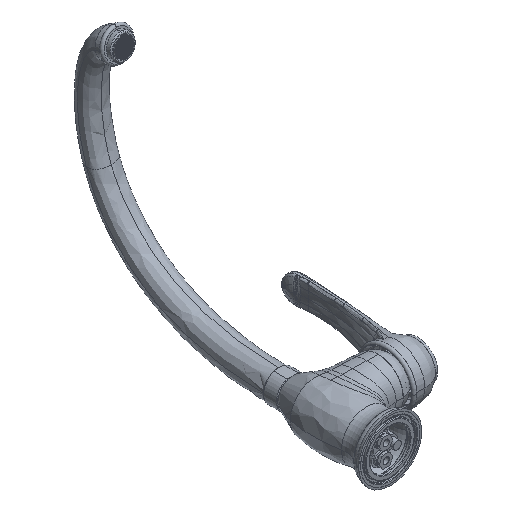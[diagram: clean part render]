
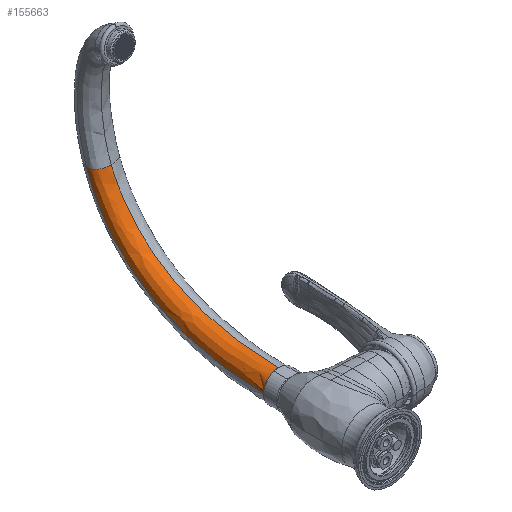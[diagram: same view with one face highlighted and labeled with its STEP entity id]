
A CAD part, isometric view. The second image highlights one B-rep face of the part: STEP entity #155663.
In plain terms, the highlighted free-form (B-spline) face has degree [3, 3] with [7, 9] control points.
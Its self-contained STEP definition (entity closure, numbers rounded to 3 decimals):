
#109195=CARTESIAN_POINT('',(-14.1,278.24,105.));
#109224=CARTESIAN_POINT('',(0.,267.74,105.));
#109261=CARTESIAN_POINT('',(0.,103.74,14.5));
#109262=CARTESIAN_POINT('',(0.,122.494,
14.5));
#109263=CARTESIAN_POINT('',(0.,157.617,
17.921));
#109264=CARTESIAN_POINT('',(0.,195.74,
30.697));
#109265=CARTESIAN_POINT('',(0.,222.435,
46.642));
#109266=CARTESIAN_POINT('',(0.,240.346,
61.804));
#109267=CARTESIAN_POINT('',(0.,255.833,
80.665));
#109268=CARTESIAN_POINT('',(0.,264.199,
96.235));
#109269=CARTESIAN_POINT('',(0.,267.74,105.));
#109296=CARTESIAN_POINT('',(-14.5,103.74,0.));
#109317=CARTESIAN_POINT('',(-14.5,103.74,0.));
#109318=CARTESIAN_POINT('',(-14.455,124.51,
0.));
#109319=CARTESIAN_POINT('',(-14.395,163.099,
4.172));
#109320=CARTESIAN_POINT('',(-14.298,204.135,
19.507));
#109321=CARTESIAN_POINT('',(-14.222,232.277,
38.306));
#109322=CARTESIAN_POINT('',(-14.173,250.84,
55.962));
#109323=CARTESIAN_POINT('',(-14.133,266.56,
77.623));
#109324=CARTESIAN_POINT('',(-14.111,274.814,
95.216));
#109325=CARTESIAN_POINT('',(-14.1,278.24,105.));
#109355=CARTESIAN_POINT('',(-14.5,103.74,0.));
#109356=CARTESIAN_POINT('',(-14.5,103.74,1.898));
#109357=CARTESIAN_POINT('',(-13.745,103.74,5.693));
#109358=CARTESIAN_POINT('',(-10.52,103.74,10.52));
#109359=CARTESIAN_POINT('',(-5.693,103.74,13.745));
#109360=CARTESIAN_POINT('',(-1.898,103.74,14.5));
#109361=CARTESIAN_POINT('',(0.,103.74,14.5));
#109363=CARTESIAN_POINT('',(-14.1,278.24,105.));
#109364=CARTESIAN_POINT('',(-14.1,276.19,105.));
#109365=CARTESIAN_POINT('',(-13.302,272.888,105.));
#109366=CARTESIAN_POINT('',(-10.285,269.755,105.));
#109367=CARTESIAN_POINT('',(-5.818,268.072,105.));
#109368=CARTESIAN_POINT('',(-2.05,267.74,105.));
#109369=CARTESIAN_POINT('',(0.,267.74,105.));
#142091=VERTEX_POINT('',#109195);
#142097=VERTEX_POINT('',#109224);
#142100=VERTEX_POINT('',#109296);
#142101=VERTEX_POINT('',#109361);
#155593=CARTESIAN_POINT('',(-14.504,101.553,
-0.171));
#155594=CARTESIAN_POINT('',(-14.456,123.197,
-0.322));
#155595=CARTESIAN_POINT('',(-14.395,162.634,
3.79));
#155596=CARTESIAN_POINT('',(-14.297,204.302,
19.372));
#155597=CARTESIAN_POINT('',(-14.221,232.47,
38.207));
#155598=CARTESIAN_POINT('',(-14.172,251.042,
55.894));
#155599=CARTESIAN_POINT('',(-14.131,267.13,
78.094));
#155600=CARTESIAN_POINT('',(-14.108,275.586,
96.441));
#155601=CARTESIAN_POINT('',(-14.097,279.142,
107.072));
#155602=CARTESIAN_POINT('',(-14.528,101.6,
1.787));
#155603=CARTESIAN_POINT('',(-14.48,122.778,
1.635));
#155604=CARTESIAN_POINT('',(-14.421,161.428,
5.638));
#155605=CARTESIAN_POINT('',(-14.323,202.458,
20.853));
#155606=CARTESIAN_POINT('',(-14.248,230.34,
39.294));
#155607=CARTESIAN_POINT('',(-14.198,248.806,
56.645));
#155608=CARTESIAN_POINT('',(-14.157,264.89,
78.471));
#155609=CARTESIAN_POINT('',(-14.134,273.408,
96.552));
#155610=CARTESIAN_POINT('',(-14.122,277.011,
107.044));
#155611=CARTESIAN_POINT('',(-13.785,101.672,
5.651));
#155612=CARTESIAN_POINT('',(-13.724,122.136,
5.498));
#155613=CARTESIAN_POINT('',(-13.641,159.566,
9.286));
#155614=CARTESIAN_POINT('',(-13.528,199.596,
23.776));
#155615=CARTESIAN_POINT('',(-13.448,227.024,
41.437));
#155616=CARTESIAN_POINT('',(-13.398,245.317,
58.125));
#155617=CARTESIAN_POINT('',(-13.36,261.383,
79.214));
#155618=CARTESIAN_POINT('',(-13.341,269.985,
96.772));
#155619=CARTESIAN_POINT('',(-13.332,273.65,
106.991));
#155620=CARTESIAN_POINT('',(-10.522,101.736,
10.528));
#155621=CARTESIAN_POINT('',(-10.5,121.565,
10.381));
#155622=CARTESIAN_POINT('',(-10.48,157.905,
13.91));
#155623=CARTESIAN_POINT('',(-10.425,197.016,
27.493));
#155624=CARTESIAN_POINT('',(-10.377,224.013,
44.176));
#155625=CARTESIAN_POINT('',(-10.343,242.127,
60.023));
#155626=CARTESIAN_POINT('',(-10.312,258.143,
80.172));
#155627=CARTESIAN_POINT('',(-10.293,266.789,
97.055));
#155628=CARTESIAN_POINT('',(-10.283,270.492,
106.922));
#155629=CARTESIAN_POINT('',(-5.636,101.767,
13.787));
#155630=CARTESIAN_POINT('',(-5.685,121.285,
13.655));
#155631=CARTESIAN_POINT('',(-5.776,157.098,
17.03));
#155632=CARTESIAN_POINT('',(-5.824,195.753,
30.036));
#155633=CARTESIAN_POINT('',(-5.831,222.509,
46.077));
#155634=CARTESIAN_POINT('',(-5.823,240.5,
61.36));
#155635=CARTESIAN_POINT('',(-5.804,256.446,
80.855));
#155636=CARTESIAN_POINT('',(-5.781,265.084,
97.256));
#155637=CARTESIAN_POINT('',(-5.767,268.79,
106.873));
#155638=CARTESIAN_POINT('',(-1.77,101.771,
14.531));
#155639=CARTESIAN_POINT('',(-1.812,121.252,
14.407));
#155640=CARTESIAN_POINT('',(-1.885,157.025,
17.761));
#155641=CARTESIAN_POINT('',(-1.934,195.643,
30.678));
#155642=CARTESIAN_POINT('',(-1.951,222.344,
46.598));
#155643=CARTESIAN_POINT('',(-1.953,240.278,
61.753));
#155644=CARTESIAN_POINT('',(-1.946,256.161,
81.069));
#155645=CARTESIAN_POINT('',(-1.933,264.767,
97.318));
#155646=CARTESIAN_POINT('',(-1.925,268.465,
106.857));
#155647=CARTESIAN_POINT('',(0.186,101.769,
14.505));
#155648=CARTESIAN_POINT('',(0.19,121.266,
14.381));
#155649=CARTESIAN_POINT('',(0.197,157.09,
17.742));
#155650=CARTESIAN_POINT('',(0.202,195.75,
30.7));
#155651=CARTESIAN_POINT('',(0.204,222.444,
46.647));
#155652=CARTESIAN_POINT('',(0.204,240.352,
61.809));
#155653=CARTESIAN_POINT('',(0.204,256.197,
81.109));
#155654=CARTESIAN_POINT('',(0.202,264.783,
97.33));
#155655=CARTESIAN_POINT('',(0.201,268.475,
106.855));
#155656=B_SPLINE_SURFACE_WITH_KNOTS('',3,3,((#155593,#155594,#155595,#155596,
#155597,#155598,#155599,#155600,#155601),(#155602,#155603,#155604,#155605,
#155606,#155607,#155608,#155609,#155610),(#155611,#155612,#155613,#155614,
#155615,#155616,#155617,#155618,#155619),(#155620,#155621,#155622,#155623,
#155624,#155625,#155626,#155627,#155628),(#155629,#155630,#155631,#155632,
#155633,#155634,#155635,#155636,#155637),(#155638,#155639,#155640,#155641,
#155642,#155643,#155644,#155645,#155646),(#155647,#155648,#155649,#155650,
#155651,#155652,#155653,#155654,#155655)),.UNSPECIFIED.,.F.,.F.,.F.,(4,1,1,1,4),
(4,1,1,1,1,1,4),(0.496,0.625,0.75,0.875,1.004),(
-0.006,0.159,0.318,0.397,
0.477,0.556,0.641),.UNSPECIFIED.);
#155657=ORIENTED_EDGE('',*,*,#155417,.F.);
#155658=ORIENTED_EDGE('',*,*,#155508,.T.);
#155659=ORIENTED_EDGE('',*,*,#155180,.T.);
#155660=ORIENTED_EDGE('',*,*,#155402,.F.);
#155661=EDGE_LOOP('',(#155657,#155658,#155659,#155660));
#155662=FACE_OUTER_BOUND('',#155661,.F.);
#155663=ADVANCED_FACE('',(#155662),#155656,.T.);
#109270=B_SPLINE_CURVE_WITH_KNOTS('',3,(#109261,#109262,#109263,#109264,#109265,
#109266,#109267,#109268,#109269),.UNSPECIFIED.,.F.,.F.,(4,1,1,1,1,1,4),(0.,
0.25,0.5,0.625,0.75,0.875,1.),.UNSPECIFIED.);
#109326=B_SPLINE_CURVE_WITH_KNOTS('',3,(#109317,#109318,#109319,#109320,#109321,
#109322,#109323,#109324,#109325),.UNSPECIFIED.,.F.,.F.,(4,1,1,1,1,1,4),(0.,
0.25,0.5,0.625,0.75,0.875,1.),.UNSPECIFIED.);
#109362=B_SPLINE_CURVE_WITH_KNOTS('',3,(#109355,#109356,#109357,#109358,#109359,
#109360,#109361),.UNSPECIFIED.,.F.,.F.,(4,1,1,1,4),(0.,0.25,0.5,0.75,
1.),.UNSPECIFIED.);
#109370=B_SPLINE_CURVE_WITH_KNOTS('',3,(#109363,#109364,#109365,#109366,#109367,
#109368,#109369),.UNSPECIFIED.,.F.,.F.,(4,1,1,1,4),(0.,0.25,0.5,0.75,
1.),.UNSPECIFIED.);
#155180=EDGE_CURVE('',#142091,#142097,#109370,.T.);
#155402=EDGE_CURVE('',#142101,#142097,#109270,.T.);
#155417=EDGE_CURVE('',#142100,#142101,#109362,.T.);
#155508=EDGE_CURVE('',#142100,#142091,#109326,.T.);
